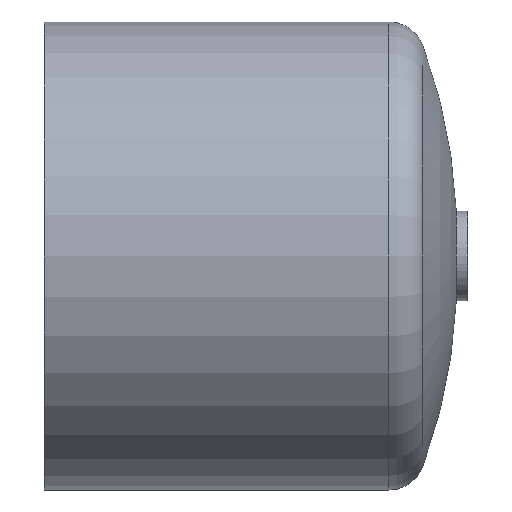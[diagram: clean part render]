
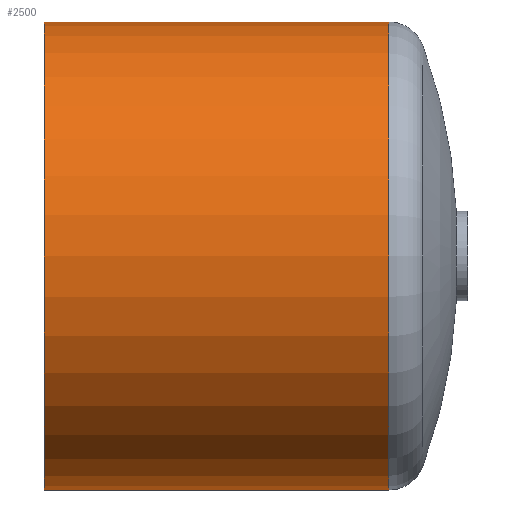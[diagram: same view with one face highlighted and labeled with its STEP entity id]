
A CAD part, front view. The second image highlights one B-rep face of the part: STEP entity #2500.
In plain terms, the highlighted cylindrical face has radius 62.5 mm (diameter 125 mm), a full revolution.
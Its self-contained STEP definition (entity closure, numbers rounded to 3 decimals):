
#24=CYLINDRICAL_SURFACE('',#2822,62.5);
#1083=ORIENTED_EDGE('',*,*,#1468,.F.);
#1084=ORIENTED_EDGE('',*,*,#1467,.T.);
#1467=EDGE_CURVE('',#1689,#1689,#1919,.T.);
#1468=EDGE_CURVE('',#1690,#1690,#1920,.F.);
#1689=VERTEX_POINT('',#6335);
#1690=VERTEX_POINT('',#6338);
#1919=CIRCLE('',#2821,62.5);
#1920=CIRCLE('',#2823,62.5);
#2107=EDGE_LOOP('',(#1083));
#2108=EDGE_LOOP('',(#1084));
#2297=FACE_BOUND('',#2107,.T.);
#2298=FACE_BOUND('',#2108,.T.);
#2500=ADVANCED_FACE('',(#2297,#2298),#24,.T.);
#2821=AXIS2_PLACEMENT_3D('',#6334,#3439,#3440);
#2822=AXIS2_PLACEMENT_3D('',#6336,#3441,#3442);
#2823=AXIS2_PLACEMENT_3D('',#6337,#3443,#3444);
#3439=DIRECTION('',(-1.,0.,0.));
#3440=DIRECTION('',(0.,0.,1.));
#3441=DIRECTION('',(-1.,0.,0.));
#3442=DIRECTION('',(0.,0.,1.));
#3443=DIRECTION('',(1.,0.,0.));
#3444=DIRECTION('',(0.,0.,-1.));
#6334=CARTESIAN_POINT('',(92.,0.,0.));
#6335=CARTESIAN_POINT('',(92.,0.,62.5));
#6336=CARTESIAN_POINT('',(110.,0.,0.));
#6337=CARTESIAN_POINT('',(0.,0.,0.));
#6338=CARTESIAN_POINT('',(0.,0.,-62.5));
